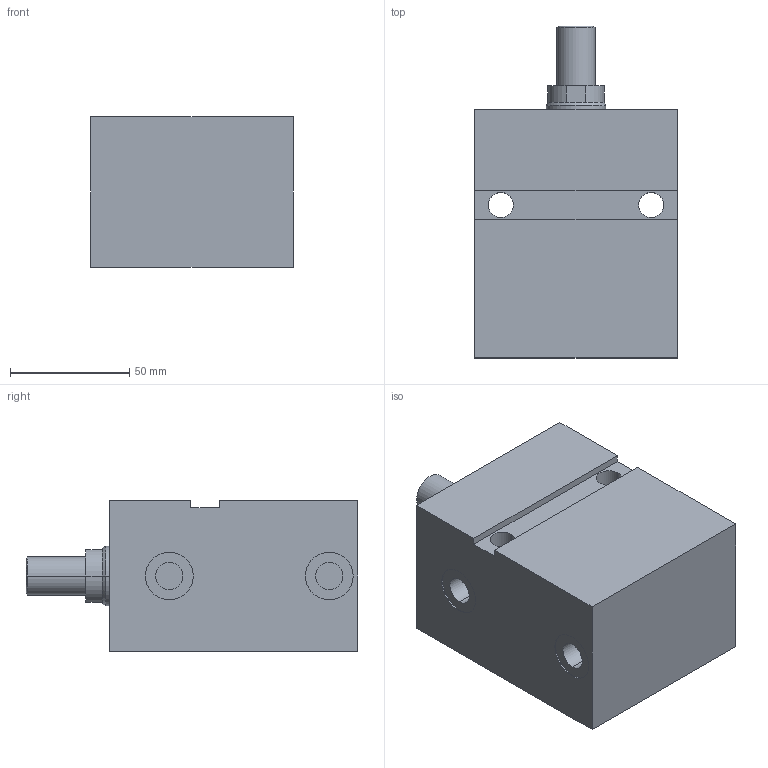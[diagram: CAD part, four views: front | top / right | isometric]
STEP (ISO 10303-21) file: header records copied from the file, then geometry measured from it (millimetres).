
FILE_DESCRIPTION (( 'STEP AP203' ), '1' );
FILE_NAME ('GERMA_Blockzylinder_602-040-050-A.STEP', '2016-04-06T15:55:52', ( '' ), ( '' ), 'SwSTEP 2.0', 'SolidWorks 2015', '' );
FILE_SCHEMA (( 'CONFIG_CONTROL_DESIGN' ));
Length unit declared in the file: millimetre
Products named in the file (3): GH-600-040_GH-602-040-050; Kolben 60x-040_Kolben DU.40-Hub50-AG; GERMA_Blockzylinder_602-040-050-A
Assembly tree (2 placements, depth 2):
  GERMA_Blockzylinder_602-040-050-A
    GH-600-040_GH-602-040-050
    Kolben 60x-040_Kolben DU.40-Hub50-AG
Bounding box: 85 x 139 x 63 mm (x, y, z)
Volume: 511078.1 mm3; surface area: 71213.9 mm2
Topology: 2 solids, 2 shells, 69 faces, 150 edges, 93 vertices
Faces by surface type: cylinder 31, plane 26, cone 12
Entity records: 2182 total; most frequent: DIRECTION 367, CARTESIAN_POINT 313, ORIENTED_EDGE 292, AXIS2_PLACEMENT_3D 147, EDGE_CURVE 146, VERTEX_POINT 93, EDGE_LOOP 85, LINE 73
